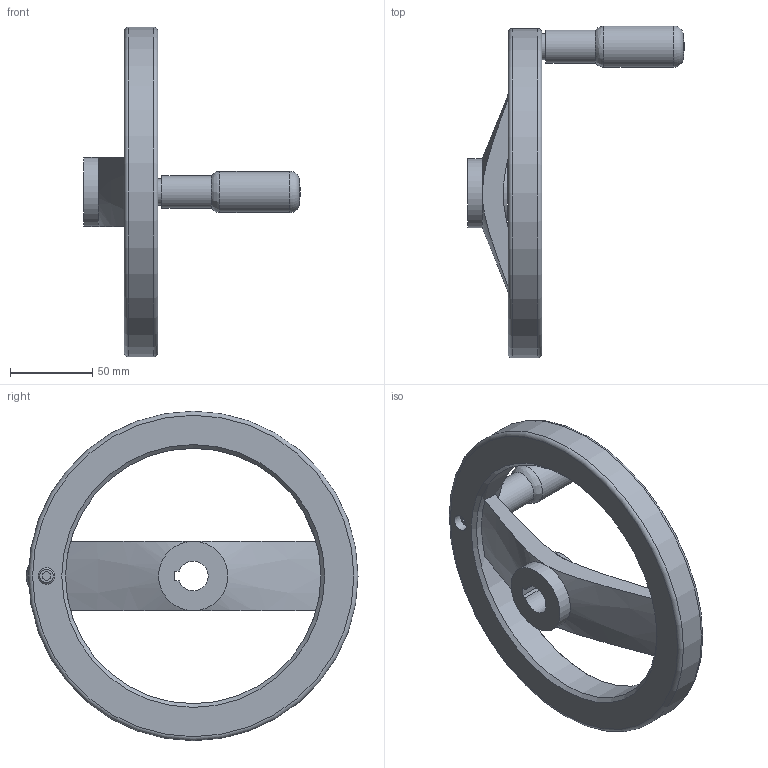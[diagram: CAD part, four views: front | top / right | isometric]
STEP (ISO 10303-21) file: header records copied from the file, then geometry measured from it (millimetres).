
FILE_DESCRIPTION( ( 'STEP AP203' ), '1' );
FILE_NAME( 'C:/Temp/Ganter_Step_05_03_2020/data/1_3/gn_324/gn_324_k/gn_324_k_d/Handwheel, matt black GN 324-200-K18-R.stp', '2020-03-05T10:33:03', ( 'License CC BY-ND 4.0' ), ( 'CADENAS' ), ' ', 'PARTsolutions', ' ' );
FILE_SCHEMA( ( 'CONFIG_CONTROL_DESIGN' ) );
Length unit declared in the file: millimetre
Products named in the file (1): _Handwheel, matt black GN 324-200-K18-R
Bounding box: 131.5 x 201.5 x 200 mm (x, y, z)
Volume: 370491.1 mm3; surface area: 71070.3 mm2
Topology: 1 solids, 2 shells, 43 faces, 97 edges, 60 vertices
Faces by surface type: plane 19, cylinder 11, cone 8, torus 3, sphere 1, bspline 1
Full cylindrical faces by diameter (mm): 8.14 x1, 10 x2, 16 x1, 20 x1, 25 x1, 42 x2, 155 x1, 200 x1
Entity records: 1283 total; most frequent: CARTESIAN_POINT 354, DIRECTION 186, ORIENTED_EDGE 148, AXIS2_PLACEMENT_3D 77, EDGE_CURVE 74, EDGE_LOOP 72, FACE_OUTER_BOUND 57, VERTEX_POINT 57
